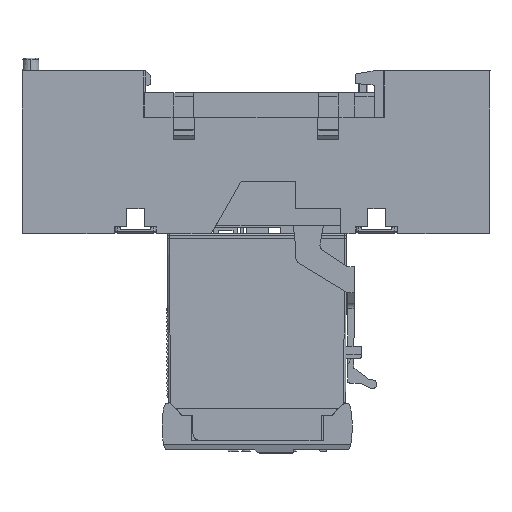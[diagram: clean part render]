
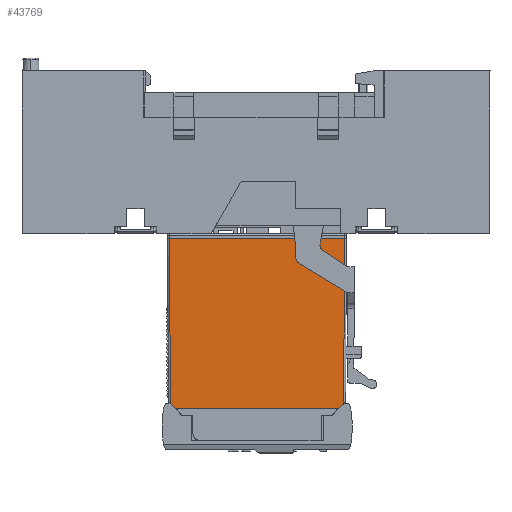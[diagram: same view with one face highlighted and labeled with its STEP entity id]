
A CAD part, left-side view. The second image highlights one B-rep face of the part: STEP entity #43769.
In plain terms, the highlighted planar face has unit normal (-1, 0, -0.006).
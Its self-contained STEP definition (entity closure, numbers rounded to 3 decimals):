
#238 = CARTESIAN_POINT ( 'NONE',  ( -6.056, -13.193, -28.2 ) ) ;
#2151 = DIRECTION ( 'NONE',  ( 0.004, -0.707, -0.707 ) ) ;
#4783 = LINE ( 'NONE', #86118, #35994 ) ;
#9203 = VECTOR ( 'NONE', #28564, 1000. ) ;
#9790 = EDGE_CURVE ( 'NONE', #61163, #50798, #67294, .T. ) ;
#14225 = AXIS2_PLACEMENT_3D ( 'NONE', #42635, #28192, #70462 ) ;
#17639 = CARTESIAN_POINT ( 'NONE',  ( -6.061, 13.773, -27.295 ) ) ;
#18381 = ORIENTED_EDGE ( 'NONE', *, *, #74037, .F. ) ;
#22890 = VECTOR ( 'NONE', #26135, 1000. ) ;
#22954 = DIRECTION ( 'NONE',  ( 0.006, 0.006, -1. ) ) ;
#23938 = EDGE_CURVE ( 'NONE', #36952, #45333, #45936, .T. ) ;
#26119 = EDGE_CURVE ( 'NONE', #36952, #64139, #60338, .T. ) ;
#26135 = DIRECTION ( 'NONE',  ( -0.006, 0.006, 1. ) ) ;
#28192 = DIRECTION ( 'NONE',  ( 1., 0., 0.006 ) ) ;
#28564 = DIRECTION ( 'NONE',  ( 0., 1., 0. ) ) ;
#32142 = VECTOR ( 'NONE', #2151, 1000. ) ;
#32334 = ORIENTED_EDGE ( 'NONE', *, *, #70433, .T. ) ;
#35994 = VECTOR ( 'NONE', #65367, 1000. ) ;
#36123 = EDGE_LOOP ( 'NONE', ( #32334, #86169, #89121, #18381, #83455, #44898 ) ) ;
#36952 = VERTEX_POINT ( 'NONE', #40186 ) ;
#38489 = FACE_OUTER_BOUND ( 'NONE', #36123, .T. ) ;
#40186 = CARTESIAN_POINT ( 'NONE',  ( -6.056, -13.193, -28.2 ) ) ;
#42103 = LINE ( 'NONE', #64348, #84144 ) ;
#42635 = CARTESIAN_POINT ( 'NONE',  ( -6.125, -0.162, -16.286 ) ) ;
#43769 = ADVANCED_FACE ( 'NONE', ( #38489 ), #69592, .F. ) ;
#44898 = ORIENTED_EDGE ( 'NONE', *, *, #9790, .F. ) ;
#45333 = VERTEX_POINT ( 'NONE', #75165 ) ;
#45936 = LINE ( 'NONE', #77138, #9203 ) ;
#49786 = CARTESIAN_POINT ( 'NONE',  ( -6.215, -14.252, -0.8 ) ) ;
#50798 = VERTEX_POINT ( 'NONE', #84702 ) ;
#54665 = EDGE_CURVE ( 'NONE', #50798, #62837, #4783, .T. ) ;
#54890 = DIRECTION ( 'NONE',  ( -0.004, -0.707, 0.707 ) ) ;
#60338 = LINE ( 'NONE', #238, #74337 ) ;
#61163 = VERTEX_POINT ( 'NONE', #69108 ) ;
#62837 = VERTEX_POINT ( 'NONE', #49786 ) ;
#64139 = VERTEX_POINT ( 'NONE', #67335 ) ;
#64348 = CARTESIAN_POINT ( 'NONE',  ( -6.215, -14.252, -0.8 ) ) ;
#65367 = DIRECTION ( 'NONE',  ( 0., -1., 0. ) ) ;
#67294 = LINE ( 'NONE', #17639, #22890 ) ;
#67335 = CARTESIAN_POINT ( 'NONE',  ( -6.061, -14.098, -27.295 ) ) ;
#69108 = CARTESIAN_POINT ( 'NONE',  ( -6.061, 13.773, -27.295 ) ) ;
#69592 = PLANE ( 'NONE',  #14225 ) ;
#70433 = EDGE_CURVE ( 'NONE', #61163, #45333, #81824, .T. ) ;
#70462 = DIRECTION ( 'NONE',  ( 0.006, 0., -1. ) ) ;
#74037 = EDGE_CURVE ( 'NONE', #62837, #64139, #42103, .T. ) ;
#74337 = VECTOR ( 'NONE', #54890, 1000. ) ;
#75165 = CARTESIAN_POINT ( 'NONE',  ( -6.056, 12.868, -28.2 ) ) ;
#77138 = CARTESIAN_POINT ( 'NONE',  ( -6.056, -0.162, -28.2 ) ) ;
#81824 = LINE ( 'NONE', #85391, #32142 ) ;
#83455 = ORIENTED_EDGE ( 'NONE', *, *, #54665, .F. ) ;
#84144 = VECTOR ( 'NONE', #22954, 1000. ) ;
#84702 = CARTESIAN_POINT ( 'NONE',  ( -6.215, 13.927, -0.8 ) ) ;
#85391 = CARTESIAN_POINT ( 'NONE',  ( -6.061, 13.773, -27.295 ) ) ;
#86118 = CARTESIAN_POINT ( 'NONE',  ( -6.215, -0.162, -0.8 ) ) ;
#86169 = ORIENTED_EDGE ( 'NONE', *, *, #23938, .F. ) ;
#89121 = ORIENTED_EDGE ( 'NONE', *, *, #26119, .T. ) ;
